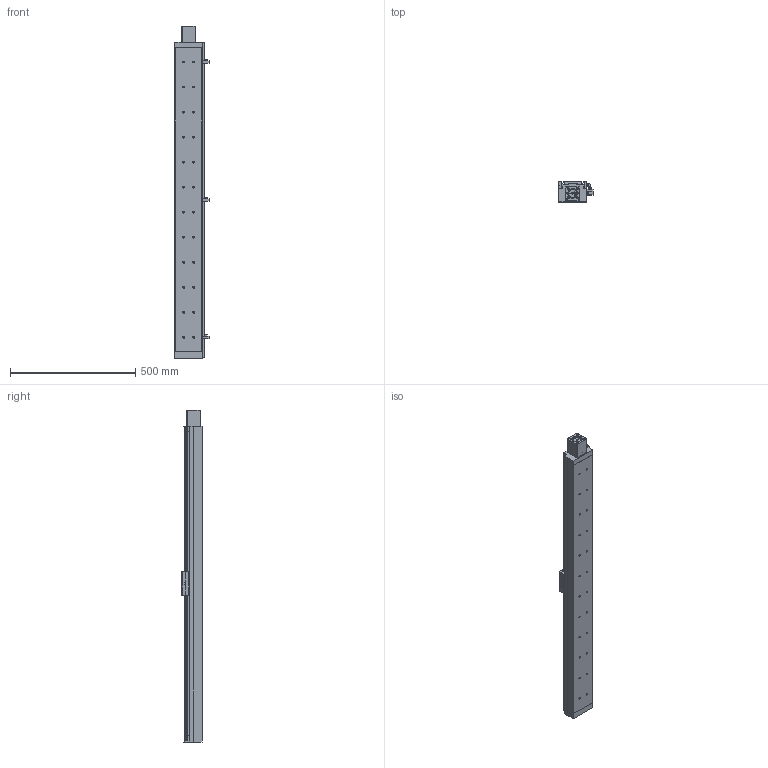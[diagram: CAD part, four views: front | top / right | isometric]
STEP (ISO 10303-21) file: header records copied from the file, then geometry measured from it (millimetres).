
FILE_DESCRIPTION((''),'2;1');
FILE_NAME('E:\libraries\UIA actuator library 2009\standard actuator\UIA110R12(15)DC\UIA110R12(15)DC-ball screw dia.20\UIA110R12(15)DC-_ _ _-R20_ _-M23 step file 20Apr16\UIA110R12(15)DC-1100-R20_ _-M23-P13-C10-S.stp','2016-04-21T16:35:11',('h029'),(''),'Autodesk Inventor 11','Autodesk Inventor 11','');
FILE_SCHEMA(('AUTOMOTIVE_DESIGN { 1 0 10303 214 1 1 1 1 }'));
Length unit declared in the file: millimetre
Products named in the file (10): UIA110R12(15)DC-1100, ball screw dia.20; body, UIA110R12(15)DC-1100,ball screw dia.20; Carriage, UIA110R12(15)DC; Sen Switch, UIA110R12(15)DC; sensor rail, UIA110R12(15)DC-1100; M23 motor mount; SOH-32C; SOH-32C-3; SOH-32C-1; SOH-32C-2
Assembly tree (9 placements, depth 3):
  UIA110R12(15)DC-1100, ball screw dia.20
    body, UIA110R12(15)DC-1100,ball screw dia.20
    Carriage, UIA110R12(15)DC
    Sen Switch, UIA110R12(15)DC
    sensor rail, UIA110R12(15)DC-1100
    M23 motor mount
    SOH-32C
      SOH-32C-3
      SOH-32C-1
      SOH-32C-2
Bounding box: 136.5 x 81 x 1327 mm (x, y, z)
Volume: 9484598 mm3; surface area: 716957.5 mm2
Topology: 8 solids, 8 shells, 677 faces, 1776 edges, 1165 vertices
Faces by surface type: plane 427, cylinder 148, bspline 83, cone 19
Full cylindrical faces by diameter (mm): 2.459 x4, 3.242 x4, 4 x6, 4.5 x4, 5.5 x3, 6.35 x1, 6.5 x24, 7.5 x4, 9.5 x6, 10 x2, 10.5 x24, 12 x1, 25 x1, 32 x3, 37 x1, 38.1 x1, 42 x1, 42.01 x1, 43.5 x1
Entity records: 21220 total; most frequent: CARTESIAN_POINT 5283, DIRECTION 3223, ORIENTED_EDGE 3034, EDGE_CURVE 1517, AXIS2_PLACEMENT_3D 1110, VERTEX_POINT 1088, VECTOR 1003, LINE 1003
